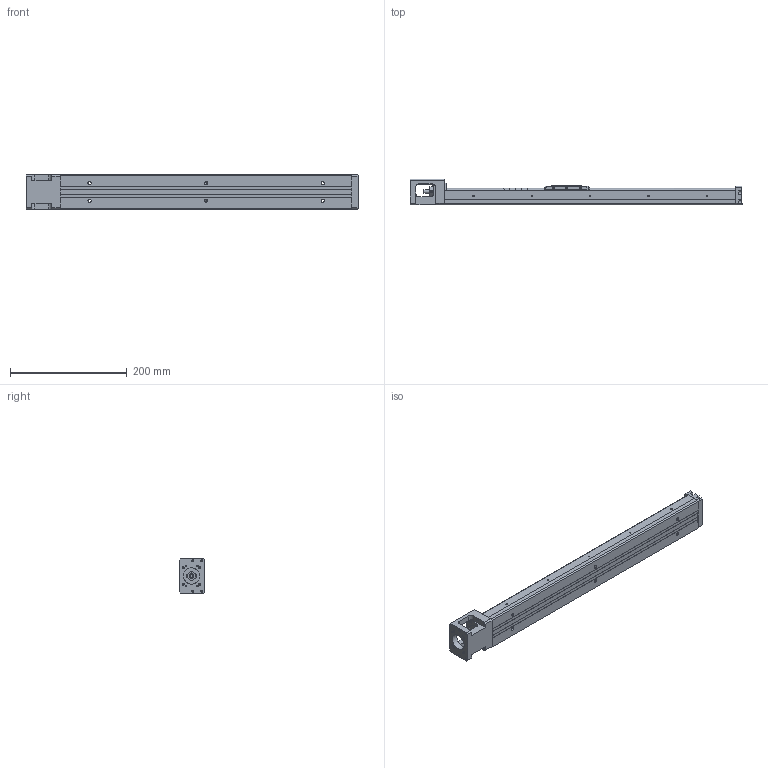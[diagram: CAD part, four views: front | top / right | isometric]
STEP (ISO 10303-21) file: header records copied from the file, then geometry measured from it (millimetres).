
FILE_DESCRIPTION(/* description */ (''),/* implementation_level */ '2;1');
FILE_NAME(/* name */ 'KP33N-500C02.stp',/* time_stamp */ '2019-02-26T13:15:24+08:00',/* author */ (''),/* organization */ (''),/* preprocessor_version */ 'ST-DEVELOPER v11',/* originating_system */ 'SIEMENS UGS NX 6.0',/* authorisation */ '');
FILE_SCHEMA (('CONFIG_CONTROL_DESIGN'));
Length unit declared in the file: millimetre
Products named in the file (1): darr5ADCioy2
Bounding box: 569.5 x 44.45 x 60 mm (x, y, z)
Volume: 607501.5 mm3; surface area: 169200.9 mm2
Topology: 5 solids, 14 shells, 642 faces, 1623 edges, 1070 vertices
Faces by surface type: plane 377, cylinder 182, bspline 31, cone 22, extrusion 21, torus 7, sphere 2
Full cylindrical faces by diameter (mm): 1.6 x5, 1.65 x4, 2.15 x5, 2.42 x4, 2.45 x2, 2.5 x12, 3 x3, 3.2 x4, 3.3 x4, 3.4 x3, 3.5 x10, 3.969 x1, 4 x6, 4.001 x1, 4.135 x4, 5.5 x6, 6 x5, 7.6 x1, 8 x5, 9.5 x6, 10.72 x3, 11.8 x2, 12 x6, 12.8 x1, 13 x2, 14 x1, 16 x4, 21.5 x1, 28 x1
Entity records: 30377 total; most frequent: CARTESIAN_POINT 15748, DIRECTION 2927, ORIENTED_EDGE 2820, EDGE_CURVE 1410, AXIS2_PLACEMENT_3D 1038, VERTEX_POINT 1000, EDGE_LOOP 904, VECTOR 851
